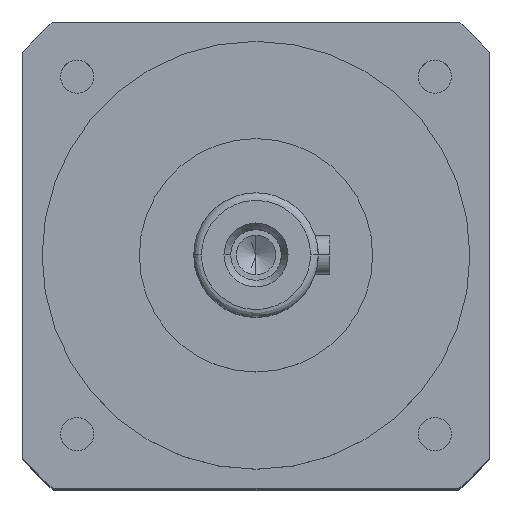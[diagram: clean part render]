
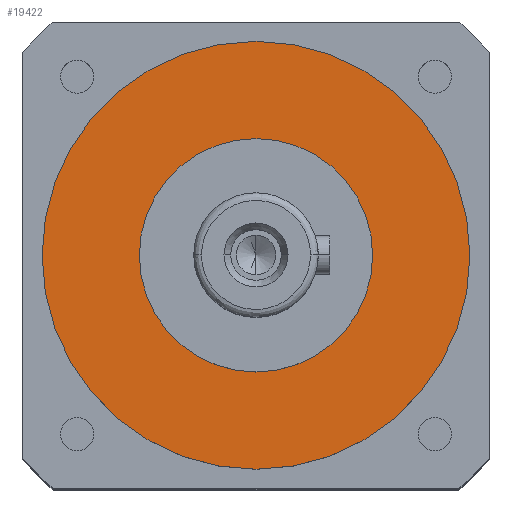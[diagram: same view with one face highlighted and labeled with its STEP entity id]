
A CAD part, top view. The second image highlights one B-rep face of the part: STEP entity #19422.
In plain terms, the highlighted planar face has unit normal (0, 0, 1).
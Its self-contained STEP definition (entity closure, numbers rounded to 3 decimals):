
#1631 = EDGE_LOOP ( 'NONE', ( #15146, #26241 ) ) ;
#2853 = ORIENTED_EDGE ( 'NONE', *, *, #31739, .F. ) ;
#4071 = DIRECTION ( 'NONE',  ( 0., 0., 1. ) ) ;
#7092 = CIRCLE ( 'NONE', #20616, 55. ) ;
#7684 = EDGE_CURVE ( 'NONE', #11742, #25937, #31237, .T. ) ;
#8423 = DIRECTION ( 'NONE',  ( 0., 0., -1. ) ) ;
#9034 = DIRECTION ( 'NONE',  ( 0., 0., 1. ) ) ;
#10999 = CARTESIAN_POINT ( 'NONE',  ( -30., 0., -52. ) ) ;
#11742 = VERTEX_POINT ( 'NONE', #10999 ) ;
#12015 = AXIS2_PLACEMENT_3D ( 'NONE', #30141, #8423, #33733 ) ;
#12654 = EDGE_LOOP ( 'NONE', ( #46050, #2853 ) ) ;
#15146 = ORIENTED_EDGE ( 'NONE', *, *, #30802, .F. ) ;
#16232 = CIRCLE ( 'NONE', #12015, 55. ) ;
#16397 = CARTESIAN_POINT ( 'NONE',  ( 55., 0., -52. ) ) ;
#18173 = DIRECTION ( 'NONE',  ( 0., 0., -1. ) ) ;
#19422 = ADVANCED_FACE ( 'NONE', ( #44088, #45181 ), #37713, .F. ) ;
#19835 = DIRECTION ( 'NONE',  ( -1., 0., 0. ) ) ;
#19910 = VERTEX_POINT ( 'NONE', #21584 ) ;
#20494 = CARTESIAN_POINT ( 'NONE',  ( 30., 0., -52. ) ) ;
#20616 = AXIS2_PLACEMENT_3D ( 'NONE', #39655, #18173, #43202 ) ;
#21584 = CARTESIAN_POINT ( 'NONE',  ( -55., 0., -52. ) ) ;
#23168 = AXIS2_PLACEMENT_3D ( 'NONE', #25884, #4071, #29476 ) ;
#25884 = CARTESIAN_POINT ( 'NONE',  ( 0., 0., -52. ) ) ;
#25937 = VERTEX_POINT ( 'NONE', #20494 ) ;
#26241 = ORIENTED_EDGE ( 'NONE', *, *, #7684, .F. ) ;
#29476 = DIRECTION ( 'NONE',  ( 1., 0., 0. ) ) ;
#30141 = CARTESIAN_POINT ( 'NONE',  ( 0., 0., -52. ) ) ;
#30507 = VERTEX_POINT ( 'NONE', #16397 ) ;
#30747 = CARTESIAN_POINT ( 'NONE',  ( 0., 0., -52. ) ) ;
#30802 = EDGE_CURVE ( 'NONE', #25937, #11742, #42003, .T. ) ;
#31019 = AXIS2_PLACEMENT_3D ( 'NONE', #33834, #41252, #19835 ) ;
#31237 = CIRCLE ( 'NONE', #32500, 30. ) ;
#31739 = EDGE_CURVE ( 'NONE', #19910, #30507, #7092, .T. ) ;
#32500 = AXIS2_PLACEMENT_3D ( 'NONE', #30747, #9034, #34323 ) ;
#33733 = DIRECTION ( 'NONE',  ( 1., 0., 0. ) ) ;
#33834 = CARTESIAN_POINT ( 'NONE',  ( 0., 30., -52. ) ) ;
#34323 = DIRECTION ( 'NONE',  ( 1., 0., 0. ) ) ;
#37713 = PLANE ( 'NONE',  #31019 ) ;
#39655 = CARTESIAN_POINT ( 'NONE',  ( 0., 0., -52. ) ) ;
#41003 = EDGE_CURVE ( 'NONE', #30507, #19910, #16232, .T. ) ;
#41252 = DIRECTION ( 'NONE',  ( 0., 0., -1. ) ) ;
#42003 = CIRCLE ( 'NONE', #23168, 30. ) ;
#43202 = DIRECTION ( 'NONE',  ( 1., 0., 0. ) ) ;
#44088 = FACE_OUTER_BOUND ( 'NONE', #12654, .T. ) ;
#45181 = FACE_BOUND ( 'NONE', #1631, .T. ) ;
#46050 = ORIENTED_EDGE ( 'NONE', *, *, #41003, .F. ) ;
